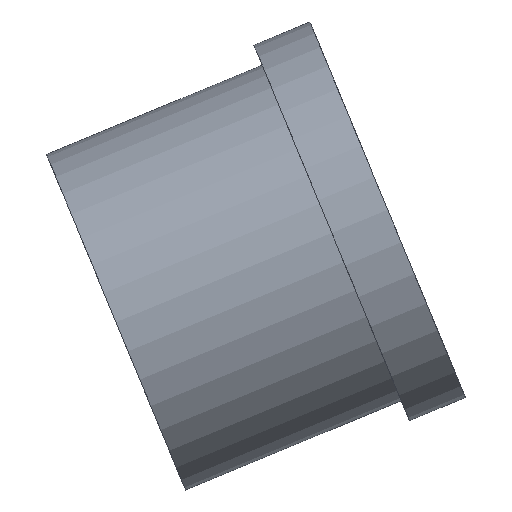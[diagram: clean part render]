
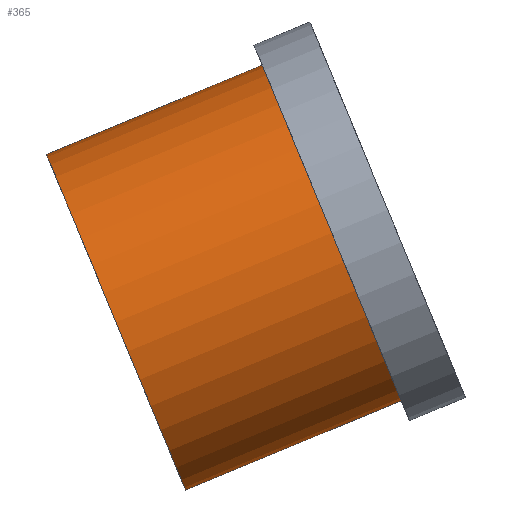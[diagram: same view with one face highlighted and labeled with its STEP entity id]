
A CAD part, left-side view. The second image highlights one B-rep face of the part: STEP entity #365.
In plain terms, the highlighted cylindrical face has radius 10.5 mm (diameter 21 mm), a partial arc.
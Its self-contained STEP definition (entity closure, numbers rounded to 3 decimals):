
#225=CARTESIAN_POINT('',(0.,4.074,-13.531));
#226=VERTEX_POINT('',#225);
#227=CARTESIAN_POINT('',(0.,-8.398,-8.365));
#228=VERTEX_POINT('',#227);
#229=CARTESIAN_POINT('',(0.,4.074,-13.531));
#230=DIRECTION('',(0.,-0.924,0.383));
#231=VECTOR('',#230,13.5);
#232=LINE('',#229,#231);
#233=EDGE_CURVE('',#226,#228,#232,.T.);
#235=CARTESIAN_POINT('',(0.,12.11,5.871));
#236=VERTEX_POINT('',#235);
#244=CARTESIAN_POINT('',(0.,-0.362,11.037));
#245=VERTEX_POINT('',#244);
#246=CARTESIAN_POINT('',(0.,12.11,5.871));
#247=DIRECTION('',(0.,-0.924,0.383));
#248=VECTOR('',#247,13.5);
#249=LINE('',#246,#248);
#250=EDGE_CURVE('',#236,#245,#249,.T.);
#337=CARTESIAN_POINT('',(0.,-4.38,1.336));
#338=DIRECTION('',(0.,0.924,-0.383));
#339=DIRECTION('',(0.0,-0.383,-0.924));
#340=AXIS2_PLACEMENT_3D('',#337,#338,#339);
#341=CIRCLE('',#340,10.5);
#342=EDGE_CURVE('',#228,#245,#341,.T.);
#348=CARTESIAN_POINT('',(0.,1.856,-1.247));
#349=DIRECTION('',(0.,0.924,-0.383));
#350=DIRECTION('',(0.0,-0.383,-0.924));
#351=AXIS2_PLACEMENT_3D('',#348,#349,#350);
#352=CYLINDRICAL_SURFACE('',#351,10.5);
#353=ORIENTED_EDGE('',*,*,#233,.T.);
#354=ORIENTED_EDGE('',*,*,#342,.T.);
#355=ORIENTED_EDGE('',*,*,#250,.F.);
#356=CARTESIAN_POINT('',(0.,8.092,-3.83));
#357=DIRECTION('',(0.,0.924,-0.383));
#358=DIRECTION('',(0.0,-0.383,-0.924));
#359=AXIS2_PLACEMENT_3D('',#356,#357,#358);
#360=CIRCLE('',#359,10.5);
#361=EDGE_CURVE('',#226,#236,#360,.T.);
#362=ORIENTED_EDGE('',*,*,#361,.F.);
#363=EDGE_LOOP('',(#353,#354,#355,#362));
#364=FACE_OUTER_BOUND('',#363,.T.);
#365=ADVANCED_FACE('',(#364),#352,.T.);
